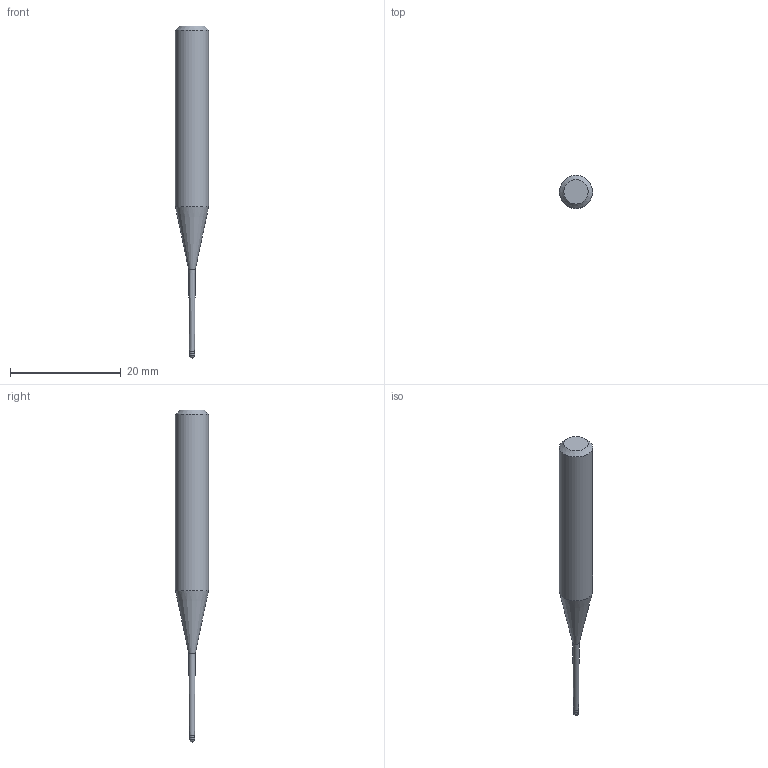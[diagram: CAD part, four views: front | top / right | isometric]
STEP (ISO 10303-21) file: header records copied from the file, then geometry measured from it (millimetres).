
FILE_DESCRIPTION((''),'2;1');
FILE_NAME('C:\Users\nsx150\AppData\Local\Temp\Mastercam 2021\E0ENTZRV18\TEMP.step','2021-09-02T09:55:54',(''),(''),'STEP Write','Mastercam 2021 ... CNC Software, Inc.','');
FILE_SCHEMA(('AUTOMOTIVE_DESIGN'));
Length unit declared in the file: millimetre
Products named in the file (1): None
Bounding box: 6 x 6 x 60 mm (x, y, z)
Volume: 1063.4 mm3; surface area: 818.5 mm2
Topology: 2 solids, 2 shells, 10 faces, 16 edges, 9 vertices
Faces by surface type: plane 3, cylinder 3, cone 3, sphere 1
Full cylindrical faces by diameter (mm): 0.905 x1, 1 x1, 6 x1
Entity records: 232 total; most frequent: DIRECTION 40, CARTESIAN_POINT 28, AXIS2_PLACEMENT_3D 20, ORIENTED_EDGE 16, EDGE_LOOP 16, STYLED_ITEM 13, ADVANCED_FACE 10, FACE_BOUND 9
